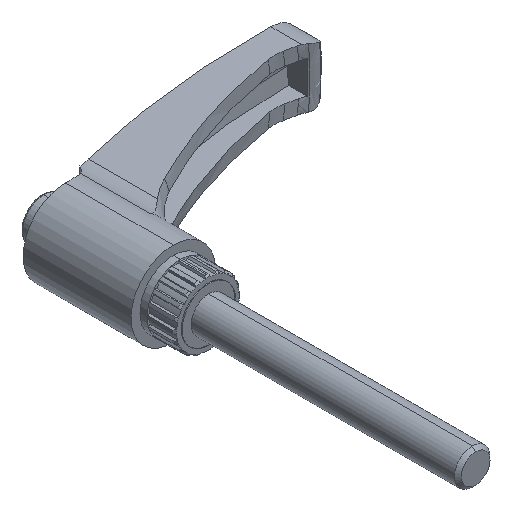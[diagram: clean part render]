
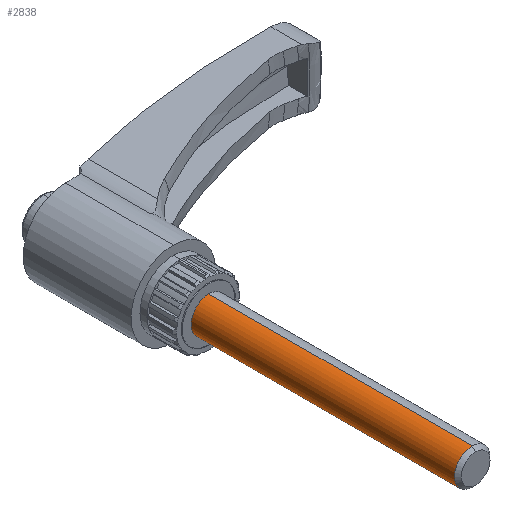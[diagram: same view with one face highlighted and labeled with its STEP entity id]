
A CAD part, isometric view. The second image highlights one B-rep face of the part: STEP entity #2838.
In plain terms, the highlighted cylindrical face has radius 4 mm (diameter 8 mm), a partial arc.
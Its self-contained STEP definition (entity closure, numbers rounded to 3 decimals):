
#41 = CARTESIAN_POINT ( 'NONE',  ( 0., -68., 0. ) ) ;
#870 = CARTESIAN_POINT ( 'NONE',  ( 0., -8., 0. ) ) ;
#975 = EDGE_LOOP ( 'NONE', ( #4019, #2328, #3745, #3093 ) ) ;
#1114 = EDGE_CURVE ( 'NONE', #1494, #3460, #3489, .T. ) ;
#1173 = VECTOR ( 'NONE', #4663, 1000. ) ;
#1189 = CARTESIAN_POINT ( 'NONE',  ( 0., -8., -4. ) ) ;
#1494 = VERTEX_POINT ( 'NONE', #5490 ) ;
#1512 = DIRECTION ( 'NONE',  ( 0., 0., -1. ) ) ;
#1619 = DIRECTION ( 'NONE',  ( 0., 0., -1. ) ) ;
#1778 = EDGE_CURVE ( 'NONE', #3460, #4879, #5801, .T. ) ;
#2048 = FACE_OUTER_BOUND ( 'NONE', #975, .T. ) ;
#2216 = CARTESIAN_POINT ( 'NONE',  ( 0., -68., 4. ) ) ;
#2328 = ORIENTED_EDGE ( 'NONE', *, *, #1114, .T. ) ;
#2402 = CARTESIAN_POINT ( 'NONE',  ( 0., -68., -4. ) ) ;
#2421 = CYLINDRICAL_SURFACE ( 'NONE', #3180, 4. ) ;
#2778 = DIRECTION ( 'NONE',  ( 0., -1., 0. ) ) ;
#2838 = ADVANCED_FACE ( 'NONE', ( #2048 ), #2421, .T. ) ;
#3093 = ORIENTED_EDGE ( 'NONE', *, *, #4450, .T. ) ;
#3180 = AXIS2_PLACEMENT_3D ( 'NONE', #41, #4843, #1512 ) ;
#3185 = CARTESIAN_POINT ( 'NONE',  ( 0., -67.233, 4. ) ) ;
#3238 = LINE ( 'NONE', #2216, #1173 ) ;
#3459 = CIRCLE ( 'NONE', #3562, 4. ) ;
#3460 = VERTEX_POINT ( 'NONE', #1189 ) ;
#3489 = CIRCLE ( 'NONE', #4310, 4. ) ;
#3562 = AXIS2_PLACEMENT_3D ( 'NONE', #3999, #5925, #1619 ) ;
#3745 = ORIENTED_EDGE ( 'NONE', *, *, #1778, .T. ) ;
#3838 = DIRECTION ( 'NONE',  ( 0., -1., 0. ) ) ;
#3945 = CARTESIAN_POINT ( 'NONE',  ( 0., -67.233, -4. ) ) ;
#3999 = CARTESIAN_POINT ( 'NONE',  ( 0., -67.233, 0. ) ) ;
#4019 = ORIENTED_EDGE ( 'NONE', *, *, #4500, .F. ) ;
#4310 = AXIS2_PLACEMENT_3D ( 'NONE', #870, #2778, #5092 ) ;
#4450 = EDGE_CURVE ( 'NONE', #4879, #4659, #3459, .T. ) ;
#4500 = EDGE_CURVE ( 'NONE', #1494, #4659, #3238, .T. ) ;
#4659 = VERTEX_POINT ( 'NONE', #3185 ) ;
#4663 = DIRECTION ( 'NONE',  ( 0., -1., 0. ) ) ;
#4843 = DIRECTION ( 'NONE',  ( 0., -1., 0. ) ) ;
#4879 = VERTEX_POINT ( 'NONE', #3945 ) ;
#5092 = DIRECTION ( 'NONE',  ( 0., 0., -1. ) ) ;
#5490 = CARTESIAN_POINT ( 'NONE',  ( 0., -8., 4. ) ) ;
#5672 = VECTOR ( 'NONE', #3838, 1000. ) ;
#5801 = LINE ( 'NONE', #2402, #5672 ) ;
#5925 = DIRECTION ( 'NONE',  ( 0., 1., 0. ) ) ;
